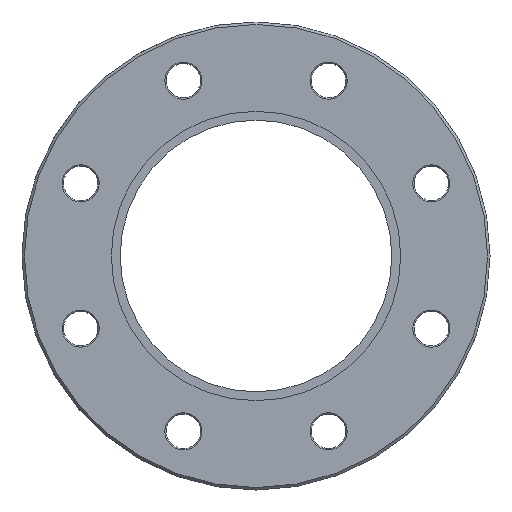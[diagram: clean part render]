
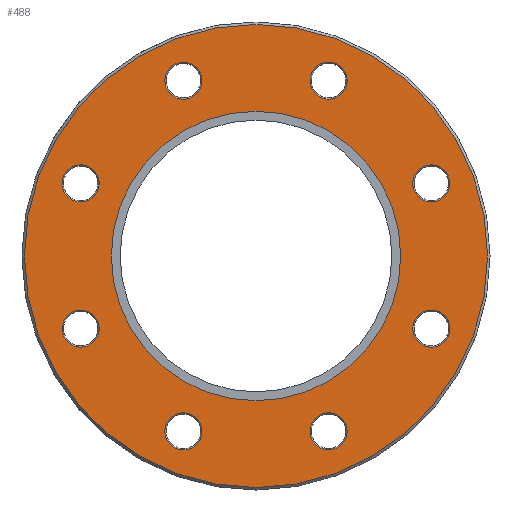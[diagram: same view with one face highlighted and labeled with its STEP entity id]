
A CAD part, left-side view. The second image highlights one B-rep face of the part: STEP entity #488.
In plain terms, the highlighted planar face has unit normal (-1, 0, 0).
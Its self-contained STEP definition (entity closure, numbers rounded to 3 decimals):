
#358=CARTESIAN_POINT('',(-17.5,56.25,0.));
#359=VERTEX_POINT('',#358);
#360=CARTESIAN_POINT('',(-17.5,0.0,0.0));
#361=DIRECTION('',(1.0,0.0,0.0));
#362=DIRECTION('',(0.0,-1.0,0.0));
#363=AXIS2_PLACEMENT_3D('',#360,#361,#362);
#364=CIRCLE('',#363,56.25);
#365=EDGE_CURVE('',#359,#359,#364,.T.);
#381=CARTESIAN_POINT('',(-17.5,28.425,0.0));
#382=DIRECTION('',(-1.0,0.0,0.0));
#383=DIRECTION('',(0.0,0.0,1.0));
#384=AXIS2_PLACEMENT_3D('',#381,#382,#383);
#385=PLANE('',#384);
#386=ORIENTED_EDGE('',*,*,#365,.F.);
#387=EDGE_LOOP('',(#386));
#388=FACE_OUTER_BOUND('',#387,.T.);
#389=CARTESIAN_POINT('',(-17.5,20.824,-39.409));
#390=VERTEX_POINT('',#389);
#391=CARTESIAN_POINT('',(-17.5,17.642,-42.591));
#392=DIRECTION('',(-1.0,0.0,0.0));
#393=DIRECTION('',(0.0,-0.707,-0.707));
#394=AXIS2_PLACEMENT_3D('',#391,#392,#393);
#395=CIRCLE('',#394,4.5);
#396=EDGE_CURVE('',#390,#390,#395,.T.);
#397=ORIENTED_EDGE('',*,*,#396,.F.);
#398=EDGE_LOOP('',(#397));
#399=FACE_BOUND('',#398,.T.);
#400=CARTESIAN_POINT('',(-17.5,-39.409,-20.824));
#401=VERTEX_POINT('',#400);
#402=CARTESIAN_POINT('',(-17.5,-42.591,-17.642));
#403=DIRECTION('',(-1.0,0.0,0.0));
#404=DIRECTION('',(0.0,-0.707,0.707));
#405=AXIS2_PLACEMENT_3D('',#402,#403,#404);
#406=CIRCLE('',#405,4.5);
#407=EDGE_CURVE('',#401,#401,#406,.T.);
#408=ORIENTED_EDGE('',*,*,#407,.F.);
#409=EDGE_LOOP('',(#408));
#410=FACE_BOUND('',#409,.T.);
#411=CARTESIAN_POINT('',(-17.5,-20.824,39.409));
#412=VERTEX_POINT('',#411);
#413=CARTESIAN_POINT('',(-17.5,-17.642,42.591));
#414=DIRECTION('',(-1.0,0.0,0.0));
#415=DIRECTION('',(0.0,0.707,0.707));
#416=AXIS2_PLACEMENT_3D('',#413,#414,#415);
#417=CIRCLE('',#416,4.5);
#418=EDGE_CURVE('',#412,#412,#417,.T.);
#419=ORIENTED_EDGE('',*,*,#418,.F.);
#420=EDGE_LOOP('',(#419));
#421=FACE_BOUND('',#420,.T.);
#422=CARTESIAN_POINT('',(-17.5,39.409,20.824));
#423=VERTEX_POINT('',#422);
#424=CARTESIAN_POINT('',(-17.5,42.591,17.642));
#425=DIRECTION('',(-1.0,0.0,0.0));
#426=DIRECTION('',(0.0,0.707,-0.707));
#427=AXIS2_PLACEMENT_3D('',#424,#425,#426);
#428=CIRCLE('',#427,4.5);
#429=EDGE_CURVE('',#423,#423,#428,.T.);
#430=ORIENTED_EDGE('',*,*,#429,.F.);
#431=EDGE_LOOP('',(#430));
#432=FACE_BOUND('',#431,.T.);
#433=CARTESIAN_POINT('',(-17.5,42.591,-13.142));
#434=VERTEX_POINT('',#433);
#435=CARTESIAN_POINT('',(-17.5,42.591,-17.642));
#436=DIRECTION('',(-1.0,0.0,0.0));
#437=DIRECTION('',(0.0,0.0,-1.0));
#438=AXIS2_PLACEMENT_3D('',#435,#436,#437);
#439=CIRCLE('',#438,4.5);
#440=EDGE_CURVE('',#434,#434,#439,.T.);
#441=ORIENTED_EDGE('',*,*,#440,.F.);
#442=EDGE_LOOP('',(#441));
#443=FACE_BOUND('',#442,.T.);
#444=CARTESIAN_POINT('',(-17.5,13.142,42.591));
#445=VERTEX_POINT('',#444);
#446=CARTESIAN_POINT('',(-17.5,17.642,42.591));
#447=DIRECTION('',(-1.0,0.0,0.0));
#448=DIRECTION('',(0.0,1.0,0.0));
#449=AXIS2_PLACEMENT_3D('',#446,#447,#448);
#450=CIRCLE('',#449,4.5);
#451=EDGE_CURVE('',#445,#445,#450,.T.);
#452=ORIENTED_EDGE('',*,*,#451,.F.);
#453=EDGE_LOOP('',(#452));
#454=FACE_BOUND('',#453,.T.);
#455=CARTESIAN_POINT('',(-17.5,-42.591,13.142));
#456=VERTEX_POINT('',#455);
#457=CARTESIAN_POINT('',(-17.5,-42.591,17.642));
#458=DIRECTION('',(-1.0,0.0,0.0));
#459=DIRECTION('',(0.0,0.0,1.0));
#460=AXIS2_PLACEMENT_3D('',#457,#458,#459);
#461=CIRCLE('',#460,4.5);
#462=EDGE_CURVE('',#456,#456,#461,.T.);
#463=ORIENTED_EDGE('',*,*,#462,.F.);
#464=EDGE_LOOP('',(#463));
#465=FACE_BOUND('',#464,.T.);
#466=CARTESIAN_POINT('',(-17.5,-13.142,-42.591));
#467=VERTEX_POINT('',#466);
#468=CARTESIAN_POINT('',(-17.5,-17.642,-42.591));
#469=DIRECTION('',(-1.0,0.0,0.0));
#470=DIRECTION('',(0.0,-1.0,0.0));
#471=AXIS2_PLACEMENT_3D('',#468,#469,#470);
#472=CIRCLE('',#471,4.5);
#473=EDGE_CURVE('',#467,#467,#472,.T.);
#474=ORIENTED_EDGE('',*,*,#473,.F.);
#475=EDGE_LOOP('',(#474));
#476=FACE_BOUND('',#475,.T.);
#477=CARTESIAN_POINT('',(-17.5,35.15,0.0));
#478=VERTEX_POINT('',#477);
#479=CARTESIAN_POINT('',(-17.5,0.0,0.0));
#480=DIRECTION('',(1.0,0.0,0.0));
#481=DIRECTION('',(0.0,1.0,0.0));
#482=AXIS2_PLACEMENT_3D('',#479,#480,#481);
#483=CIRCLE('',#482,35.15);
#484=EDGE_CURVE('',#478,#478,#483,.T.);
#485=ORIENTED_EDGE('',*,*,#484,.T.);
#486=EDGE_LOOP('',(#485));
#487=FACE_BOUND('',#486,.T.);
#488=ADVANCED_FACE('',(#388,#399,#410,#421,#432,#443,#454,#465,#476,#487),#385,.T.);
